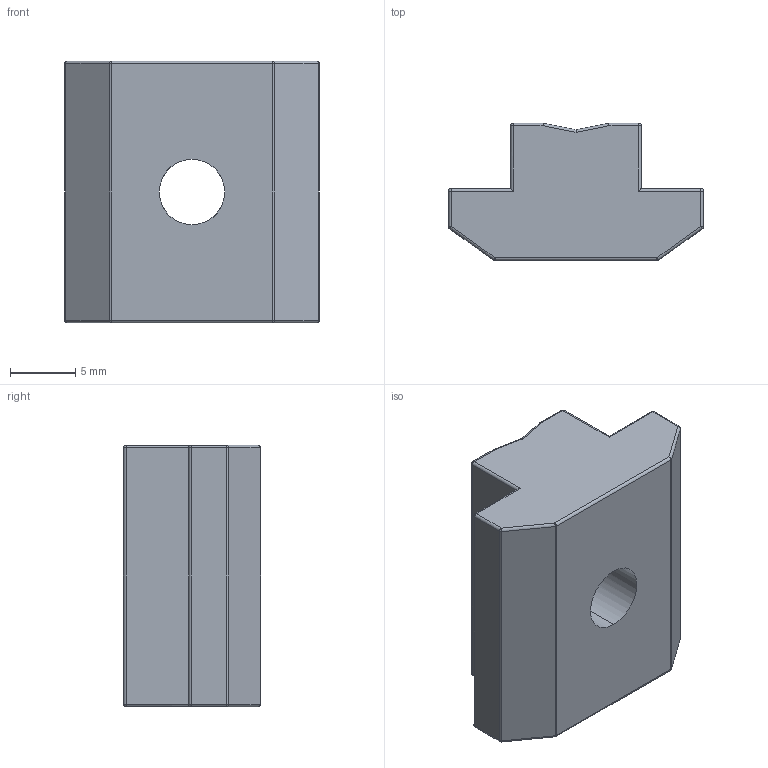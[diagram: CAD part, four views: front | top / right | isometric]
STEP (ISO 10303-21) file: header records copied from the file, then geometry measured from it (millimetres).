
FILE_DESCRIPTION (( 'STEP AP203' ), '1' );
FILE_NAME ('SLN6-104545.STEP', '2018-03-15T12:20:44', ( '' ), ( '' ), 'SwSTEP 2.0', 'SolidWorks 2013', '' );
FILE_SCHEMA (( 'CONFIG_CONTROL_DESIGN' ));
Length unit declared in the file: millimetre
Products named in the file (1): SLN6-104545
Bounding box: 19.5 x 10.5 x 20 mm (x, y, z)
Volume: 2742.8 mm3; surface area: 1533.5 mm2
Topology: 1 solids, 1 shells, 81 faces, 186 edges, 86 vertices
Faces by surface type: cylinder 40, sphere 20, plane 17, bspline 4
Entity records: 2167 total; most frequent: CARTESIAN_POINT 432, DIRECTION 370, ORIENTED_EDGE 332, EDGE_CURVE 166, AXIS2_PLACEMENT_3D 144, VERTEX_POINT 86, LINE 82, EDGE_LOOP 82
